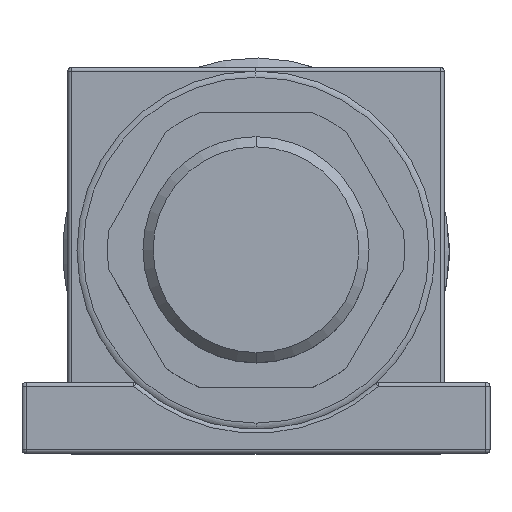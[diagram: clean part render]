
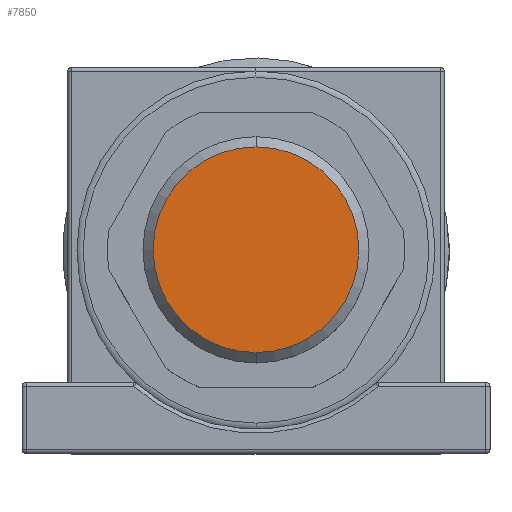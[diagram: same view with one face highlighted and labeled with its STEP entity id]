
A CAD part, top view. The second image highlights one B-rep face of the part: STEP entity #7850.
In plain terms, the highlighted planar face has unit normal (0, 0, 1) as drawn and (0, 0, -1) by its records, which use the part's own axes.
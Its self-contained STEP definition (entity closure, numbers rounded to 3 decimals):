
#7525=CARTESIAN_POINT('',(0.,0.,-48.7));
#7526=DIRECTION('',(0.,0.,1.));
#7527=DIRECTION('',(0.,1.,0.));
#7528=AXIS2_PLACEMENT_3D('',#7525,#7526,#7527);
#7530=CARTESIAN_POINT('',(0.,0.,-48.7));
#7531=DIRECTION('',(0.,0.,1.));
#7532=DIRECTION('',(0.,-1.,0.));
#7533=AXIS2_PLACEMENT_3D('',#7530,#7531,#7532);
#7636=CARTESIAN_POINT('',(0.,10.113,-48.7));
#7637=CARTESIAN_POINT('',(0.,-10.113,-48.7));
#7638=VERTEX_POINT('',#7636);
#7639=VERTEX_POINT('',#7637);
#7841=CARTESIAN_POINT('',(0.,0.,-48.7));
#7842=DIRECTION('',(0.,0.,-1.));
#7843=DIRECTION('',(0.,-1.,0.));
#7844=AXIS2_PLACEMENT_3D('',#7841,#7842,#7843);
#7845=PLANE('',#7844);
#7846=ORIENTED_EDGE('',*,*,#7823,.T.);
#7847=ORIENTED_EDGE('',*,*,#7808,.T.);
#7848=EDGE_LOOP('',(#7846,#7847));
#7849=FACE_OUTER_BOUND('',#7848,.F.);
#7850=ADVANCED_FACE('',(#7849),#7845,.T.);
#7529=CIRCLE('',#7528,10.113);
#7534=CIRCLE('',#7533,10.113);
#7808=EDGE_CURVE('',#7639,#7638,#7534,.T.);
#7823=EDGE_CURVE('',#7638,#7639,#7529,.T.);
